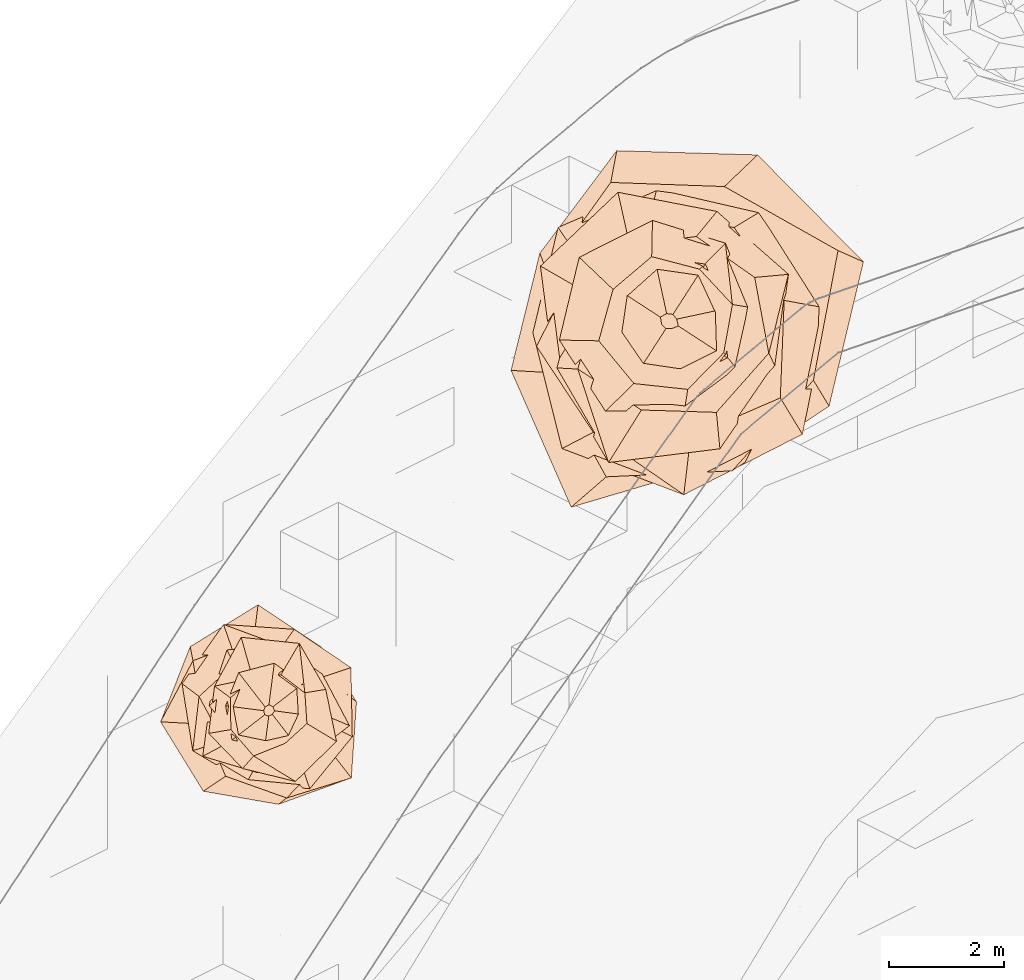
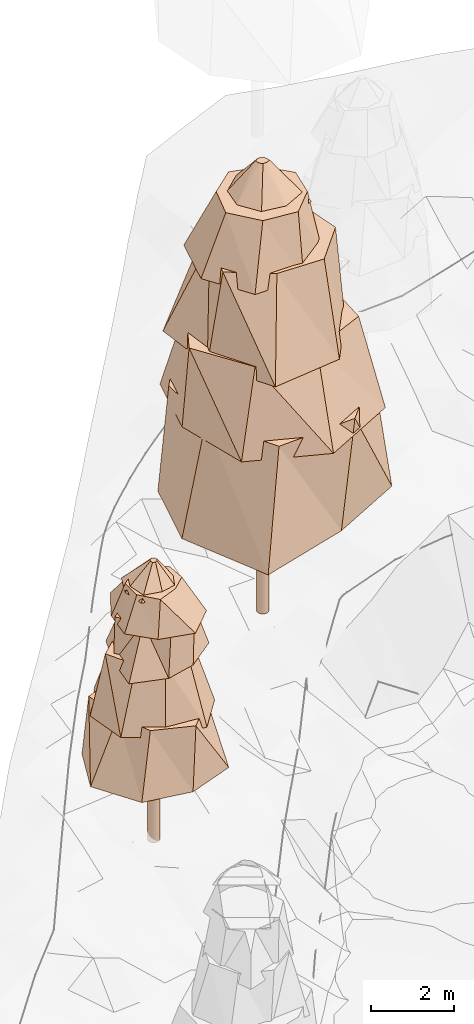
# Not in any storey, part 43 of 88: 2 geographic elements.
"""IFC4 model written with IfcOpenShell, lengths in metres."""

from ifc_helpers import new_model, si_unit, frame, origin_with_axes, place, context, subcontext, project, spatial, circle, extrude, faceted_brep, element, save


model = new_model("IFC4")

# Units and contexts
model_context = context("Model", 3, precision=1e-05, world=origin_with_axes())
body_context = subcontext(model_context, "Body", "Model", "MODEL_VIEW")
ifc_project = project(units=[si_unit("LENGTHUNIT", "METRE"), si_unit("AREAUNIT", "SQUARE_METRE"), si_unit("VOLUMEUNIT", "CUBIC_METRE"), si_unit("PLANEANGLEUNIT", "RADIAN")], contexts=[model_context])

# Sites
site_1_placement = place(None, origin_with_axes())
site_1 = spatial("IfcSite", under=ifc_project, at=site_1_placement, Name="CH907857693633", CompositionType="ELEMENT")
site_2_placement = place(None, origin_with_axes())
site_2 = spatial("IfcSite", under=site_1, at=site_2_placement, Name="Simulated_forest", CompositionType="ELEMENT")

# Geographic elements
geographic_element_1_placement = place(None, frame((104.795254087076, 89.3889063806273, 4.75201416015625), z_axis=(0.0, 0.0, 1.0), x_axis=(1.0, 0.0, 0.0)))
element("IfcGeographicElement", 1, at=geographic_element_1_placement, inside=site_2, Name="Tree_SIMULATED_WOODED_AREA", ObjectType="VEGETATION", PredefinedType="USERDEFINED", context=body_context, shape_type="Brep", body=[
    extrude(circle(Radius=0.15), origin_with_axes(), (0.0, 0.0, 1.0), 2.32940908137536),
    faceted_brep([(1.42910352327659, -1.16390003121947, 2.32940908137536), (0.165859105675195, -1.62167265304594, 2.32940908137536), (-1.13574723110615, -1.39453589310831, 2.32940908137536), (-1.87661691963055, -0.191933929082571, 2.32940908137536), (-1.36351397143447, 1.11048215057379, 2.32940908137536), (-0.187821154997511, 1.83640463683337, 2.32940908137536), (0.903090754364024, 1.10886686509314, 2.32940908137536), (1.51917823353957, 0.155376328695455, 2.32940908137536), (1.35936057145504, 0.278277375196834, 4.16410588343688), (0.65980471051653, 0.999480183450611, 4.16410588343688), (-0.259491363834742, 1.26759255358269, 4.16410588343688), (-1.31471786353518, 0.867908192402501, 4.16410588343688), (-1.13520334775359, -0.23238970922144, 4.16410588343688), (-0.749354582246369, -1.1351314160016, 4.16410588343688), (0.309439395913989, -1.51158430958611, 4.16410588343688), (1.07775230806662, -0.711475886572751, 4.16410588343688), (1.51917823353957, 0.155376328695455, 2.32940908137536), (0.903090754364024, 1.10886686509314, 2.32940908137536), (0.65980471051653, 0.999480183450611, 4.16410588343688), (1.35936057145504, 0.278277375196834, 4.16410588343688), (0.903090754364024, 1.10886686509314, 2.32940908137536), (-0.187821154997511, 1.83640463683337, 2.32940908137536), (-0.259491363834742, 1.26759255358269, 4.16410588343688), (0.65980471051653, 0.999480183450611, 4.16410588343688), (-0.187821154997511, 1.83640463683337, 2.32940908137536), (-1.36351397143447, 1.11048215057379, 2.32940908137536), (-1.31471786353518, 0.867908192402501, 4.16410588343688), (-0.259491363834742, 1.26759255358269, 4.16410588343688), (-1.36351397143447, 1.11048215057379, 2.32940908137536), (-1.87661691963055, -0.191933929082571, 2.32940908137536), (-1.13520334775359, -0.23238970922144, 4.16410588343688), (-1.31471786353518, 0.867908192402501, 4.16410588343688), (-1.87661691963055, -0.191933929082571, 2.32940908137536), (-1.13574723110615, -1.39453589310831, 2.32940908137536), (-0.749354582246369, -1.1351314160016, 4.16410588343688), (-1.13520334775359, -0.23238970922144, 4.16410588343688), (-1.13574723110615, -1.39453589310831, 2.32940908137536), (0.165859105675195, -1.62167265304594, 2.32940908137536), (0.309439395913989, -1.51158430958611, 4.16410588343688), (-0.749354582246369, -1.1351314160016, 4.16410588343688), (0.165859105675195, -1.62167265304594, 2.32940908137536), (1.42910352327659, -1.16390003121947, 2.32940908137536), (1.07775230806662, -0.711475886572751, 4.16410588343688), (0.309439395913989, -1.51158430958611, 4.16410588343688), (1.42910352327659, -1.16390003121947, 2.32940908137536), (1.51917823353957, 0.155376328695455, 2.32940908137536), (1.35936057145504, 0.278277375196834, 4.16410588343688), (1.07775230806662, -0.711475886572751, 4.16410588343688)], [[[0, 1, 2, 3, 4, 5, 6, 7]], [[8, 9, 10, 11, 12, 13, 14, 15]], [[16, 17, 18, 19]], [[20, 21, 22, 23]], [[24, 25, 26, 27]], [[28, 29, 30, 31]], [[32, 33, 34, 35]], [[36, 37, 38, 39]], [[40, 41, 42, 43]], [[44, 45, 46, 47]]]),
    faceted_brep([(1.44594853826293, -0.450422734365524, 3.88890136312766), (0.709804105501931, -1.35210168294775, 3.88890136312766), (-0.388501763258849, -1.24716963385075, 3.88890136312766), (-1.31928855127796, -0.692578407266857, 3.88890136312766), (-1.50452416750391, 0.468669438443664, 3.88890136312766), (-0.785693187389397, 1.49666235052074, 3.88890136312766), (0.439630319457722, 1.41130269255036, 3.88890136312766), (1.4228719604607, 0.746955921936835, 3.88890136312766), (0.834861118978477, 0.551062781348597, 5.75594830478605), (0.229238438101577, 1.1194816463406, 5.75594830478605), (-0.557094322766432, 0.843998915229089, 5.75594830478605), (-1.20976320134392, 0.247725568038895, 5.75594830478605), (-0.794195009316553, -0.524220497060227, 5.75594830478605), (-0.181526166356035, -0.886479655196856, 5.75594830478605), (0.510072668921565, -0.772761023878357, 5.75594830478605), (0.930207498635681, -0.190480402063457, 5.75594830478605), (1.4228719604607, 0.746955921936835, 3.88890136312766), (0.439630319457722, 1.41130269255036, 3.88890136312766), (0.229238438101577, 1.1194816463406, 5.75594830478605), (0.834861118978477, 0.551062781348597, 5.75594830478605), (0.439630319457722, 1.41130269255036, 3.88890136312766), (-0.785693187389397, 1.49666235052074, 3.88890136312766), (-0.557094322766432, 0.843998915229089, 5.75594830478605), (0.229238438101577, 1.1194816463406, 5.75594830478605), (-0.785693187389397, 1.49666235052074, 3.88890136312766), (-1.50452416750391, 0.468669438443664, 3.88890136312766), (-1.20976320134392, 0.247725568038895, 5.75594830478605), (-0.557094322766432, 0.843998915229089, 5.75594830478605), (-1.50452416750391, 0.468669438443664, 3.88890136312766), (-1.31928855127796, -0.692578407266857, 3.88890136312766), (-0.794195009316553, -0.524220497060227, 5.75594830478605), (-1.20976320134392, 0.247725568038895, 5.75594830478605), (-1.31928855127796, -0.692578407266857, 3.88890136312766), (-0.388501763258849, -1.24716963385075, 3.88890136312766), (-0.181526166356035, -0.886479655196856, 5.75594830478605), (-0.794195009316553, -0.524220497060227, 5.75594830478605), (-0.388501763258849, -1.24716963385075, 3.88890136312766), (0.709804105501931, -1.35210168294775, 3.88890136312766), (0.510072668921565, -0.772761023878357, 5.75594830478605), (-0.181526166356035, -0.886479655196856, 5.75594830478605), (0.709804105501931, -1.35210168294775, 3.88890136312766), (1.44594853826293, -0.450422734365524, 3.88890136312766), (0.930207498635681, -0.190480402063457, 5.75594830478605), (0.510072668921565, -0.772761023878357, 5.75594830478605), (1.44594853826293, -0.450422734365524, 3.88890136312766), (1.4228719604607, 0.746955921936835, 3.88890136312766), (0.834861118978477, 0.551062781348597, 5.75594830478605), (0.930207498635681, -0.190480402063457, 5.75594830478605)], [[[0, 1, 2, 3, 4, 5, 6, 7]], [[8, 9, 10, 11, 12, 13, 14, 15]], [[16, 17, 18, 19]], [[20, 21, 22, 23]], [[24, 25, 26, 27]], [[28, 29, 30, 31]], [[32, 33, 34, 35]], [[36, 37, 38, 39]], [[40, 41, 42, 43]], [[44, 45, 46, 47]]]),
    faceted_brep([(1.39698456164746, -0.257802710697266, 5.47589126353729), (0.601467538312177, -0.873697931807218, 5.47589126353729), (-0.197836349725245, -1.07203809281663, 5.47589126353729), (-1.14636343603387, -0.78917480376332, 5.47589126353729), (-1.01368895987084, 0.187068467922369, 5.47589126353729), (-0.726431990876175, 1.05522258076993, 5.47589126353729), (0.2100657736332, 1.1383070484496, 5.47589126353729), (0.924903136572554, 0.636718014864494, 5.47589126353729), (0.551258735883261, 0.467066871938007, 6.88595888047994), (0.0638558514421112, 0.772355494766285, 6.88595888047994), (-0.481109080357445, 0.567832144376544, 6.88595888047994), (-1.03377675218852, 0.0854693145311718, 6.88595888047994), (-0.564721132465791, -0.478473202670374, 6.88595888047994), (-0.0823922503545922, -0.996558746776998, 6.88595888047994), (0.680253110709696, -0.802873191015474, 6.88595888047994), (0.979266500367, -0.0809625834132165, 6.88595888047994), (0.924903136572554, 0.636718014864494, 5.47589126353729), (0.2100657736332, 1.1383070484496, 5.47589126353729), (0.0638558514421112, 0.772355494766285, 6.88595888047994), (0.551258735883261, 0.467066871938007, 6.88595888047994), (0.2100657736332, 1.1383070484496, 5.47589126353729), (-0.726431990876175, 1.05522258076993, 5.47589126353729), (-0.481109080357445, 0.567832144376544, 6.88595888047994), (0.0638558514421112, 0.772355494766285, 6.88595888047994), (-0.726431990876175, 1.05522258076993, 5.47589126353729), (-1.01368895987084, 0.187068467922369, 5.47589126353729), (-1.03377675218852, 0.0854693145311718, 6.88595888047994), (-0.481109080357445, 0.567832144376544, 6.88595888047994), (-1.01368895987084, 0.187068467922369, 5.47589126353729), (-1.14636343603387, -0.78917480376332, 5.47589126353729), (-0.564721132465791, -0.478473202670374, 6.88595888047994), (-1.03377675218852, 0.0854693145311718, 6.88595888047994), (-1.14636343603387, -0.78917480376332, 5.47589126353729), (-0.197836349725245, -1.07203809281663, 5.47589126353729), (-0.0823922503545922, -0.996558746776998, 6.88595888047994), (-0.564721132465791, -0.478473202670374, 6.88595888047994), (-0.197836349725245, -1.07203809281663, 5.47589126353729), (0.601467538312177, -0.873697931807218, 5.47589126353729), (0.680253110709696, -0.802873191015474, 6.88595888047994), (-0.0823922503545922, -0.996558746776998, 6.88595888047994), (0.601467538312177, -0.873697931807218, 5.47589126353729), (1.39698456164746, -0.257802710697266, 5.47589126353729), (0.979266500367, -0.0809625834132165, 6.88595888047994), (0.680253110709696, -0.802873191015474, 6.88595888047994), (1.39698456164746, -0.257802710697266, 5.47589126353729), (0.924903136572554, 0.636718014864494, 5.47589126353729), (0.551258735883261, 0.467066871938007, 6.88595888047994), (0.979266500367, -0.0809625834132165, 6.88595888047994)], [[[0, 1, 2, 3, 4, 5, 6, 7]], [[8, 9, 10, 11, 12, 13, 14, 15]], [[16, 17, 18, 19]], [[20, 21, 22, 23]], [[24, 25, 26, 27]], [[28, 29, 30, 31]], [[32, 33, 34, 35]], [[36, 37, 38, 39]], [[40, 41, 42, 43]], [[44, 45, 46, 47]]]),
    faceted_brep([(1.17242353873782, -0.53078105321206, 6.67444873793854), (0.461440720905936, -1.22486894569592, 6.67444873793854), (-0.453223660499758, -1.00110975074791, 6.67444873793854), (-1.0418383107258, -0.392488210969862, 6.67444873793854), (-0.941326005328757, 0.426158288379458, 6.67444873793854), (-0.479619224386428, 1.27312278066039, 6.67444873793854), (0.528477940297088, 1.16733627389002, 6.67444873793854), (0.985115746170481, 0.371119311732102, 6.67444873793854), (0.624031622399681, 0.30939610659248, 7.65669324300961), (0.21069113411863, 0.625056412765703, 7.65669324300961), (-0.280536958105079, 0.565824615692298, 7.65669324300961), (-0.665508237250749, 0.22432644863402, 7.65669324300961), (-0.65859094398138, -0.326530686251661, 7.65669324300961), (-0.264337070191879, -0.784207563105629, 7.65669324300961), (0.280380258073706, -0.56550856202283, 7.65669324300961), (0.659838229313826, -0.222415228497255, 7.65669324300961), (0.985115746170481, 0.371119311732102, 6.67444873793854), (0.528477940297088, 1.16733627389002, 6.67444873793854), (0.21069113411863, 0.625056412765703, 7.65669324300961), (0.624031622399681, 0.30939610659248, 7.65669324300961), (0.528477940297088, 1.16733627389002, 6.67444873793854), (-0.479619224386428, 1.27312278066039, 6.67444873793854), (-0.280536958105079, 0.565824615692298, 7.65669324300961), (0.21069113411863, 0.625056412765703, 7.65669324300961), (-0.479619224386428, 1.27312278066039, 6.67444873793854), (-0.941326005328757, 0.426158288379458, 6.67444873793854), (-0.665508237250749, 0.22432644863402, 7.65669324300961), (-0.280536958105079, 0.565824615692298, 7.65669324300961), (-0.941326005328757, 0.426158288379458, 6.67444873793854), (-1.0418383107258, -0.392488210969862, 6.67444873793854), (-0.65859094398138, -0.326530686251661, 7.65669324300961), (-0.665508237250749, 0.22432644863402, 7.65669324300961), (-1.0418383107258, -0.392488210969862, 6.67444873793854), (-0.453223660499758, -1.00110975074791, 6.67444873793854), (-0.264337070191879, -0.784207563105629, 7.65669324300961), (-0.65859094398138, -0.326530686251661, 7.65669324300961), (-0.453223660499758, -1.00110975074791, 6.67444873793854), (0.461440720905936, -1.22486894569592, 6.67444873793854), (0.280380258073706, -0.56550856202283, 7.65669324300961), (-0.264337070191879, -0.784207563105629, 7.65669324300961), (0.461440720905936, -1.22486894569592, 6.67444873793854), (1.17242353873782, -0.53078105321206, 6.67444873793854), (0.659838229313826, -0.222415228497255, 7.65669324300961), (0.280380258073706, -0.56550856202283, 7.65669324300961), (1.17242353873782, -0.53078105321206, 6.67444873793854), (0.985115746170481, 0.371119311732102, 6.67444873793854), (0.624031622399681, 0.30939610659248, 7.65669324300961), (0.659838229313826, -0.222415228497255, 7.65669324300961)], [[[0, 1, 2, 3, 4, 5, 6, 7]], [[8, 9, 10, 11, 12, 13, 14, 15]], [[16, 17, 18, 19]], [[20, 21, 22, 23]], [[24, 25, 26, 27]], [[28, 29, 30, 31]], [[32, 33, 34, 35]], [[36, 37, 38, 39]], [[40, 41, 42, 43]], [[44, 45, 46, 47]]]),
    faceted_brep([(0.61826886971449, -0.0707501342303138, 7.50935656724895), (0.409698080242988, -0.515580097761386, 7.50935656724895), (-0.0715428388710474, -0.625196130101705, 7.50935656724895), (-0.637599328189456, -0.506658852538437, 7.50935656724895), (-0.749841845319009, 0.085806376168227, 7.50935656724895), (-0.523969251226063, 0.659383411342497, 7.50935656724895), (0.0942147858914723, 0.823320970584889, 7.50935656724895), (0.5872065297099, 0.466614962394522, 7.50935656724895), (0.0697656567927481, 0.0678476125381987, 8.25321483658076), (0.00144657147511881, 0.10378667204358, 8.25321483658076), (-0.0641860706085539, 0.0660006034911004, 8.25321483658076), (-0.0908472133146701, 0.00126622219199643, 8.25321483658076), (-0.0709816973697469, -0.0690302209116, 8.25321483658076), (-0.00132713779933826, -0.0952177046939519, 8.25321483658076), (0.0594480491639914, -0.0611286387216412, 8.25321483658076), (0.10121150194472, -0.00141067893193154, 8.25321483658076), (0.5872065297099, 0.466614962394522, 7.50935656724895), (0.0942147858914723, 0.823320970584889, 7.50935656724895), (0.00144657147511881, 0.10378667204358, 8.25321483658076), (0.0697656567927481, 0.0678476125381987, 8.25321483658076), (0.0942147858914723, 0.823320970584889, 7.50935656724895), (-0.523969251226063, 0.659383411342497, 7.50935656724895), (-0.0641860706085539, 0.0660006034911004, 8.25321483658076), (0.00144657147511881, 0.10378667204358, 8.25321483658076), (-0.523969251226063, 0.659383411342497, 7.50935656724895), (-0.749841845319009, 0.085806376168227, 7.50935656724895), (-0.0908472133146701, 0.00126622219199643, 8.25321483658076), (-0.0641860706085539, 0.0660006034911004, 8.25321483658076), (-0.749841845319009, 0.085806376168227, 7.50935656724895), (-0.637599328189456, -0.506658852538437, 7.50935656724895), (-0.0709816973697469, -0.0690302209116, 8.25321483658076), (-0.0908472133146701, 0.00126622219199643, 8.25321483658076), (-0.637599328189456, -0.506658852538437, 7.50935656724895), (-0.0715428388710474, -0.625196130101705, 7.50935656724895), (-0.00132713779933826, -0.0952177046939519, 8.25321483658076), (-0.0709816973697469, -0.0690302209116, 8.25321483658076), (-0.0715428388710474, -0.625196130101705, 7.50935656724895), (0.409698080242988, -0.515580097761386, 7.50935656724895), (0.0594480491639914, -0.0611286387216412, 8.25321483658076), (-0.00132713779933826, -0.0952177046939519, 8.25321483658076), (0.409698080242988, -0.515580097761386, 7.50935656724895), (0.61826886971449, -0.0707501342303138, 7.50935656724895), (0.10121150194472, -0.00141067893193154, 8.25321483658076), (0.0594480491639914, -0.0611286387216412, 8.25321483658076), (0.61826886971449, -0.0707501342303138, 7.50935656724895), (0.5872065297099, 0.466614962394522, 7.50935656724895), (0.0697656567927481, 0.0678476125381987, 8.25321483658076), (0.10121150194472, -0.00141067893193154, 8.25321483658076)], [[[0, 1, 2, 3, 4, 5, 6, 7]], [[8, 9, 10, 11, 12, 13, 14, 15]], [[16, 17, 18, 19]], [[20, 21, 22, 23]], [[24, 25, 26, 27]], [[28, 29, 30, 31]], [[32, 33, 34, 35]], [[36, 37, 38, 39]], [[40, 41, 42, 43]], [[44, 45, 46, 47]]]),
])
geographic_element_2_placement = place(None, frame((111.736734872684, 96.1327285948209, 4.99853515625), z_axis=(0.0, 0.0, 1.0), x_axis=(1.0, 0.0, 0.0)))
element("IfcGeographicElement", 2, at=geographic_element_2_placement, inside=site_2, Name="Tree_SIMULATED_WOODED_AREA", ObjectType="VEGETATION", PredefinedType="USERDEFINED", context=body_context, shape_type="Brep", body=[
    extrude(circle(Radius=0.15), origin_with_axes(), (0.0, 0.0, 1.0), 3.59665669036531),
    faceted_brep([(2.7682651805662, -1.46473426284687, 3.59665669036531), (0.766088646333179, -2.48774522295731, 3.59665669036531), (-1.70139587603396, -3.21554228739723, 3.59665669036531), (-2.74454915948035, -0.845170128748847, 3.59665669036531), (-2.24470329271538, 1.18770912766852, 3.59665669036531), (-0.91216199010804, 2.96209406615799, 3.59665669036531), (1.5288185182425, 2.88938081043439, 3.59665669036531), (3.36309443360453, 1.03564803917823, 3.59665669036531), (2.92293456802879, 1.23142265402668, 6.8670212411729), (0.953158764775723, 2.34096015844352, 6.8670212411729), (-1.01622946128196, 2.41214680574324, 6.8670212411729), (-2.12492089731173, 0.865194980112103, 6.8670212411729), (-2.09500082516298, -0.882616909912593, 6.8670212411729), (-1.09528871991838, -2.69003166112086, 6.8670212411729), (1.08933101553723, -2.58566242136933, 6.8670212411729), (2.4958764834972, -1.01623538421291, 6.8670212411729), (3.36309443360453, 1.03564803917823, 3.59665669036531), (1.5288185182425, 2.88938081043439, 3.59665669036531), (0.953158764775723, 2.34096015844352, 6.8670212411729), (2.92293456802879, 1.23142265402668, 6.8670212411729), (1.5288185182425, 2.88938081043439, 3.59665669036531), (-0.91216199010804, 2.96209406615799, 3.59665669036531), (-1.01622946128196, 2.41214680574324, 6.8670212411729), (0.953158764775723, 2.34096015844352, 6.8670212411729), (-0.91216199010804, 2.96209406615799, 3.59665669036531), (-2.24470329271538, 1.18770912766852, 3.59665669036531), (-2.12492089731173, 0.865194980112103, 6.8670212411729), (-1.01622946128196, 2.41214680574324, 6.8670212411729), (-2.24470329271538, 1.18770912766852, 3.59665669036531), (-2.74454915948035, -0.845170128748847, 3.59665669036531), (-2.09500082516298, -0.882616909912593, 6.8670212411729), (-2.12492089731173, 0.865194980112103, 6.8670212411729), (-2.74454915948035, -0.845170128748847, 3.59665669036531), (-1.70139587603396, -3.21554228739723, 3.59665669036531), (-1.09528871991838, -2.69003166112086, 6.8670212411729), (-2.09500082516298, -0.882616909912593, 6.8670212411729), (-1.70139587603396, -3.21554228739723, 3.59665669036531), (0.766088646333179, -2.48774522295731, 3.59665669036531), (1.08933101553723, -2.58566242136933, 6.8670212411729), (-1.09528871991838, -2.69003166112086, 6.8670212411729), (0.766088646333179, -2.48774522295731, 3.59665669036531), (2.7682651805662, -1.46473426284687, 3.59665669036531), (2.4958764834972, -1.01623538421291, 6.8670212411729), (1.08933101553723, -2.58566242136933, 6.8670212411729), (2.7682651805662, -1.46473426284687, 3.59665669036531), (3.36309443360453, 1.03564803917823, 3.59665669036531), (2.92293456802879, 1.23142265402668, 6.8670212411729), (2.4958764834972, -1.01623538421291, 6.8670212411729)], [[[0, 1, 2, 3, 4, 5, 6, 7]], [[8, 9, 10, 11, 12, 13, 14, 15]], [[16, 17, 18, 19]], [[20, 21, 22, 23]], [[24, 25, 26, 27]], [[28, 29, 30, 31]], [[32, 33, 34, 35]], [[36, 37, 38, 39]], [[40, 41, 42, 43]], [[44, 45, 46, 47]]]),
    faceted_brep([(2.30572878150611, -1.95118772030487, 6.37646655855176), (0.249908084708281, -3.00060547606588, 6.37646655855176), (-1.86132693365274, -2.19953981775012, 6.37646655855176), (-2.36654078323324, -0.197099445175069, 6.37646655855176), (-1.9293976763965, 1.63272327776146, 6.37646655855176), (-0.198132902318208, 2.37894933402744, 6.37646655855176), (1.65177360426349, 1.95190954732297, 6.37646655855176), (2.74610530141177, 0.228711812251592, 6.37646655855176), (1.98927875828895, 0.368350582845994, 8.82730533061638), (1.12213564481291, 1.63213889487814, 8.82730533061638), (-0.337840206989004, 1.82450735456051, 8.82730533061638), (-1.53691522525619, 1.05666702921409, 8.82730533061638), (-2.30305723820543, -0.426452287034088, 8.82730533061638), (-1.31825074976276, -1.91738702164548, 8.82730533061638), (0.369240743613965, -1.99408607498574, 8.82730533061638), (1.92287736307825, -1.32202549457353, 8.82730533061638), (2.74610530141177, 0.228711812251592, 6.37646655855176), (1.65177360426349, 1.95190954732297, 6.37646655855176), (1.12213564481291, 1.63213889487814, 8.82730533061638), (1.98927875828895, 0.368350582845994, 8.82730533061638), (1.65177360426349, 1.95190954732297, 6.37646655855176), (-0.198132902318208, 2.37894933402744, 6.37646655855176), (-0.337840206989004, 1.82450735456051, 8.82730533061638), (1.12213564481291, 1.63213889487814, 8.82730533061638), (-0.198132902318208, 2.37894933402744, 6.37646655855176), (-1.9293976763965, 1.63272327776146, 6.37646655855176), (-1.53691522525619, 1.05666702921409, 8.82730533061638), (-0.337840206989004, 1.82450735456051, 8.82730533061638), (-1.9293976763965, 1.63272327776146, 6.37646655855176), (-2.36654078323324, -0.197099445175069, 6.37646655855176), (-2.30305723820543, -0.426452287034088, 8.82730533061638), (-1.53691522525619, 1.05666702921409, 8.82730533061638), (-2.36654078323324, -0.197099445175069, 6.37646655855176), (-1.86132693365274, -2.19953981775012, 6.37646655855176), (-1.31825074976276, -1.91738702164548, 8.82730533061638), (-2.30305723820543, -0.426452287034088, 8.82730533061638), (-1.86132693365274, -2.19953981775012, 6.37646655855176), (0.249908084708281, -3.00060547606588, 6.37646655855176), (0.369240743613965, -1.99408607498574, 8.82730533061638), (-1.31825074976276, -1.91738702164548, 8.82730533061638), (0.249908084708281, -3.00060547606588, 6.37646655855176), (2.30572878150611, -1.95118772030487, 6.37646655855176), (1.92287736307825, -1.32202549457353, 8.82730533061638), (0.369240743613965, -1.99408607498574, 8.82730533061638), (2.30572878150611, -1.95118772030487, 6.37646655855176), (2.74610530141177, 0.228711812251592, 6.37646655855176), (1.98927875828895, 0.368350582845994, 8.82730533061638), (1.92287736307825, -1.32202549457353, 8.82730533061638)], [[[0, 1, 2, 3, 4, 5, 6, 7]], [[8, 9, 10, 11, 12, 13, 14, 15]], [[16, 17, 18, 19]], [[20, 21, 22, 23]], [[24, 25, 26, 27]], [[28, 29, 30, 31]], [[32, 33, 34, 35]], [[36, 37, 38, 39]], [[40, 41, 42, 43]], [[44, 45, 46, 47]]]),
    faceted_brep([(1.8443259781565, -0.795436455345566, 8.45967951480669), (0.875670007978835, -2.20381721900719, 8.45967951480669), (-1.05309604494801, -2.44174425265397, 8.45967951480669), (-2.0086437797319, -0.798119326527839, 8.45967951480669), (-2.2346424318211, 0.963775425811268, 8.45967951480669), (-0.89089967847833, 2.24214605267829, 8.45967951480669), (0.823647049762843, 1.90973602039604, 8.45967951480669), (2.06374637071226, 0.820013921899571, 8.45967951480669), (1.47827400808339, 0.766251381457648, 11.0616036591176), (0.467898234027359, 1.47496642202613, 11.0616036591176), (-0.689330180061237, 1.32987543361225, 11.0616036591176), (-1.25364897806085, 0.397690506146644, 11.0616036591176), (-1.58706795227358, -0.822643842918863, 11.0616036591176), (-0.48577469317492, -1.53131879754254, 11.0616036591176), (0.81508219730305, -1.57247980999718, 11.0616036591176), (1.72288570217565, -0.546544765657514, 11.0616036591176), (2.06374637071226, 0.820013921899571, 8.45967951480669), (0.823647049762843, 1.90973602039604, 8.45967951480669), (0.467898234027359, 1.47496642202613, 11.0616036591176), (1.47827400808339, 0.766251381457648, 11.0616036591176), (0.823647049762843, 1.90973602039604, 8.45967951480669), (-0.89089967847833, 2.24214605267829, 8.45967951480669), (-0.689330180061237, 1.32987543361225, 11.0616036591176), (0.467898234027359, 1.47496642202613, 11.0616036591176), (-0.89089967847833, 2.24214605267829, 8.45967951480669), (-2.2346424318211, 0.963775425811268, 8.45967951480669), (-1.25364897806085, 0.397690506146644, 11.0616036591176), (-0.689330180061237, 1.32987543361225, 11.0616036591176), (-2.2346424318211, 0.963775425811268, 8.45967951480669), (-2.0086437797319, -0.798119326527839, 8.45967951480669), (-1.58706795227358, -0.822643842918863, 11.0616036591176), (-1.25364897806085, 0.397690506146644, 11.0616036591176), (-2.0086437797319, -0.798119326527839, 8.45967951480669), (-1.05309604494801, -2.44174425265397, 8.45967951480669), (-0.48577469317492, -1.53131879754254, 11.0616036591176), (-1.58706795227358, -0.822643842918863, 11.0616036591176), (-1.05309604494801, -2.44174425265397, 8.45967951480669), (0.875670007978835, -2.20381721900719, 8.45967951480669), (0.81508219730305, -1.57247980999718, 11.0616036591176), (-0.48577469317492, -1.53131879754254, 11.0616036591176), (0.875670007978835, -2.20381721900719, 8.45967951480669), (1.8443259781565, -0.795436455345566, 8.45967951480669), (1.72288570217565, -0.546544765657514, 11.0616036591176), (0.81508219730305, -1.57247980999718, 11.0616036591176), (1.8443259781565, -0.795436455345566, 8.45967951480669), (2.06374637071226, 0.820013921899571, 8.45967951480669), (1.47827400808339, 0.766251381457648, 11.0616036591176), (1.72288570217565, -0.546544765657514, 11.0616036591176)], [[[0, 1, 2, 3, 4, 5, 6, 7]], [[8, 9, 10, 11, 12, 13, 14, 15]], [[16, 17, 18, 19]], [[20, 21, 22, 23]], [[24, 25, 26, 27]], [[28, 29, 30, 31]], [[32, 33, 34, 35]], [[36, 37, 38, 39]], [[40, 41, 42, 43]], [[44, 45, 46, 47]]]),
    faceted_brep([(1.19247363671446, -0.851053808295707, 10.671315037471), (0.258270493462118, -1.54584707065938, 10.671315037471), (-1.10775593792, -1.55215773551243, 10.671315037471), (-1.90692340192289, -0.318596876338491, 10.671315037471), (-1.56245349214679, 1.11510389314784, 10.671315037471), (-0.29310907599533, 1.75436922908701, 10.671315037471), (0.970458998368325, 1.35978096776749, 10.671315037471), (1.43359174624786, 0.239515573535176, 10.671315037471), (1.09221396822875, 0.297046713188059, 12.391140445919), (0.520785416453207, 0.909879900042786, 12.391140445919), (-0.306516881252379, 1.12703492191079, 12.391140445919), (-0.976693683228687, 0.559027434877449, 12.391140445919), (-1.22411871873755, -0.332920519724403, 12.391140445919), (-0.614272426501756, -1.07321387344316, 12.391140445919), (0.319324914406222, -1.17412890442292, 12.391140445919), (0.941846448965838, -0.539082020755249, 12.391140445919), (1.43359174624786, 0.239515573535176, 10.671315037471), (0.970458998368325, 1.35978096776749, 10.671315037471), (0.520785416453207, 0.909879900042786, 12.391140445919), (1.09221396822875, 0.297046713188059, 12.391140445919), (0.970458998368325, 1.35978096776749, 10.671315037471), (-0.29310907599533, 1.75436922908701, 10.671315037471), (-0.306516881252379, 1.12703492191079, 12.391140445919), (0.520785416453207, 0.909879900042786, 12.391140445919), (-0.29310907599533, 1.75436922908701, 10.671315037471), (-1.56245349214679, 1.11510389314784, 10.671315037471), (-0.976693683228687, 0.559027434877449, 12.391140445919), (-0.306516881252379, 1.12703492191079, 12.391140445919), (-1.56245349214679, 1.11510389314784, 10.671315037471), (-1.90692340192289, -0.318596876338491, 10.671315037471), (-1.22411871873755, -0.332920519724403, 12.391140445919), (-0.976693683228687, 0.559027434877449, 12.391140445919), (-1.90692340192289, -0.318596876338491, 10.671315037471), (-1.10775593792, -1.55215773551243, 10.671315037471), (-0.614272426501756, -1.07321387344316, 12.391140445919), (-1.22411871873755, -0.332920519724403, 12.391140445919), (-1.10775593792, -1.55215773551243, 10.671315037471), (0.258270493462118, -1.54584707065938, 10.671315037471), (0.319324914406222, -1.17412890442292, 12.391140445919), (-0.614272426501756, -1.07321387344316, 12.391140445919), (0.258270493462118, -1.54584707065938, 10.671315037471), (1.19247363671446, -0.851053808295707, 10.671315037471), (0.941846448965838, -0.539082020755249, 12.391140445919), (0.319324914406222, -1.17412890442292, 12.391140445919), (1.19247363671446, -0.851053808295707, 10.671315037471), (1.43359174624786, 0.239515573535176, 10.671315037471), (1.09221396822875, 0.297046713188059, 12.391140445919), (0.941846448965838, -0.539082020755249, 12.391140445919)], [[[0, 1, 2, 3, 4, 5, 6, 7]], [[8, 9, 10, 11, 12, 13, 14, 15]], [[16, 17, 18, 19]], [[20, 21, 22, 23]], [[24, 25, 26, 27]], [[28, 29, 30, 31]], [[32, 33, 34, 35]], [[36, 37, 38, 39]], [[40, 41, 42, 43]], [[44, 45, 46, 47]]]),
    faceted_brep([(1.00508092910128, -0.627441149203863, 12.1331666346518), (0.233680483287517, -1.01019163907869, 12.1331666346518), (-0.557267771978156, -0.892672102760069, 12.1331666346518), (-1.00801756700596, -0.233177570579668, 12.1331666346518), (-0.892765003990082, 0.557325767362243, 12.1331666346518), (-0.259809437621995, 1.12314609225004, 12.1331666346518), (0.622883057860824, 0.997779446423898, 12.1331666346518), (0.978201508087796, 0.226280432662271, 12.1331666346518), (0.127180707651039, 0.0431827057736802, 13.3059557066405), (0.061687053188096, 0.125112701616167, 13.3059557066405), (-0.0476666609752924, 0.14038674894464, 13.3059557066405), (-0.155613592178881, 0.076725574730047, 13.3059557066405), (-0.134072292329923, -0.045522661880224, 13.3059557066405), (-0.0595864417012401, -0.120852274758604, 13.3059557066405), (0.040608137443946, -0.119598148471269, 13.3059557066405), (0.154377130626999, -0.0761159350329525, 13.3059557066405), (0.978201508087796, 0.226280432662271, 12.1331666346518), (0.622883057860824, 0.997779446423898, 12.1331666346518), (0.061687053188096, 0.125112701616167, 13.3059557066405), (0.127180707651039, 0.0431827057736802, 13.3059557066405), (0.622883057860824, 0.997779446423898, 12.1331666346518), (-0.259809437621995, 1.12314609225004, 12.1331666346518), (-0.0476666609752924, 0.14038674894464, 13.3059557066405), (0.061687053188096, 0.125112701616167, 13.3059557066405), (-0.259809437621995, 1.12314609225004, 12.1331666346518), (-0.892765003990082, 0.557325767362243, 12.1331666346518), (-0.155613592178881, 0.076725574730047, 13.3059557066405), (-0.0476666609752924, 0.14038674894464, 13.3059557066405), (-0.892765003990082, 0.557325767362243, 12.1331666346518), (-1.00801756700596, -0.233177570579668, 12.1331666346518), (-0.134072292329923, -0.045522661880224, 13.3059557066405), (-0.155613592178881, 0.076725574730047, 13.3059557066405), (-1.00801756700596, -0.233177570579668, 12.1331666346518), (-0.557267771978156, -0.892672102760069, 12.1331666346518), (-0.0595864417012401, -0.120852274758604, 13.3059557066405), (-0.134072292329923, -0.045522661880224, 13.3059557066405), (-0.557267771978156, -0.892672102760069, 12.1331666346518), (0.233680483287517, -1.01019163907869, 12.1331666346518), (0.040608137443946, -0.119598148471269, 13.3059557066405), (-0.0595864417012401, -0.120852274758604, 13.3059557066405), (0.233680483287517, -1.01019163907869, 12.1331666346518), (1.00508092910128, -0.627441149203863, 12.1331666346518), (0.154377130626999, -0.0761159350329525, 13.3059557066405), (0.040608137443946, -0.119598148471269, 13.3059557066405), (1.00508092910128, -0.627441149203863, 12.1331666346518), (0.978201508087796, 0.226280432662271, 12.1331666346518), (0.127180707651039, 0.0431827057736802, 13.3059557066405), (0.154377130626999, -0.0761159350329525, 13.3059557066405)], [[[0, 1, 2, 3, 4, 5, 6, 7]], [[8, 9, 10, 11, 12, 13, 14, 15]], [[16, 17, 18, 19]], [[20, 21, 22, 23]], [[24, 25, 26, 27]], [[28, 29, 30, 31]], [[32, 33, 34, 35]], [[36, 37, 38, 39]], [[40, 41, 42, 43]], [[44, 45, 46, 47]]]),
])

save(model, "model.ifc")
